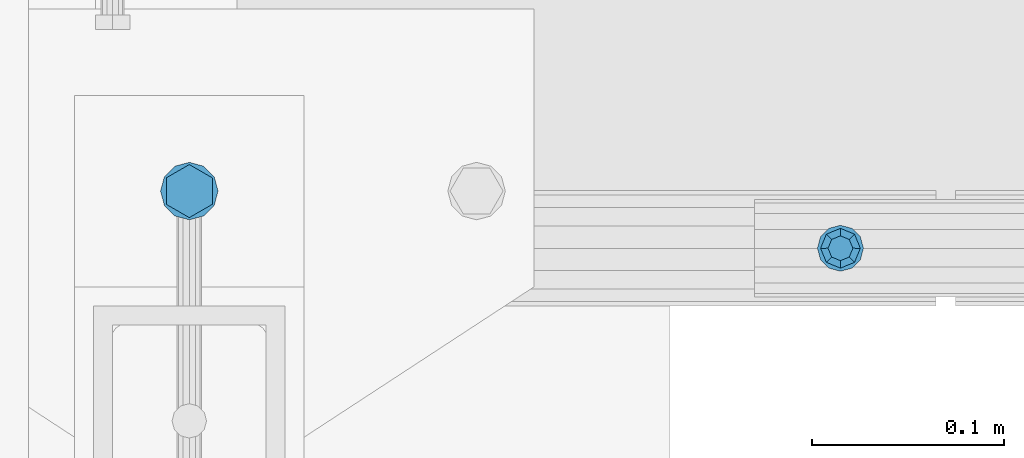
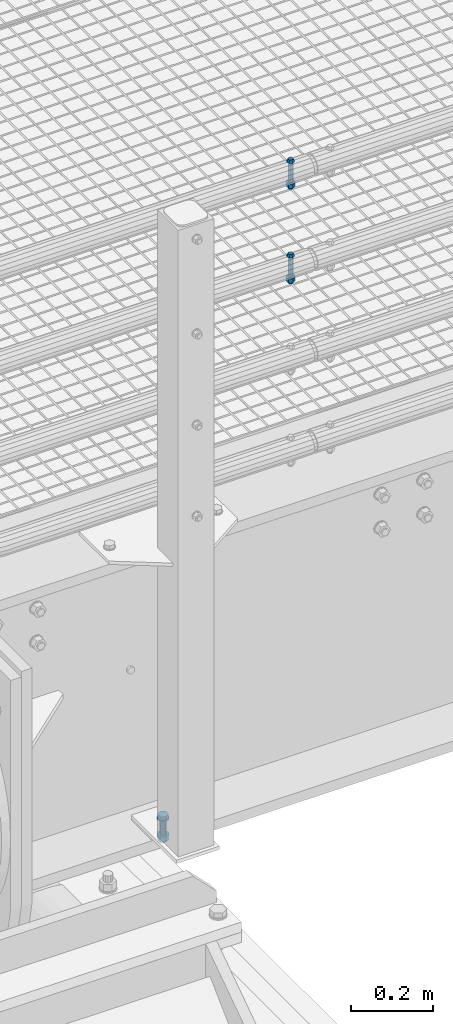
# One storey, part 61 of 1530: 3 mechanical fasteners.
"""IFC2X3 building model written with IfcOpenShell, lengths in millimetres."""

from ifc_helpers import new_model, si_unit, frame, origin_with_axes, place, context, subcontext, project, spatial, faceted_brep, source, transform, mapped, material, type_object, element, save


model = new_model("IFC2X3")

# Units and contexts
model_context = context("Model", 3, precision=1e-05, world=origin_with_axes())
body_context = subcontext(model_context, "Body", "Model", "MODEL_VIEW")
ifc_project = project(units=[si_unit("LENGTHUNIT", "METRE", prefix="MILLI"), si_unit("AREAUNIT", "SQUARE_METRE"), si_unit("VOLUMEUNIT", "CUBIC_METRE"), si_unit("MASSUNIT", "GRAM", prefix="KILO"), si_unit("TIMEUNIT", "SECOND"), si_unit("PLANEANGLEUNIT", "RADIAN"), si_unit("SOLIDANGLEUNIT", "STERADIAN"), si_unit("THERMODYNAMICTEMPERATUREUNIT", "DEGREE_CELSIUS"), si_unit("LUMINOUSINTENSITYUNIT", "LUMEN")], contexts=[model_context])

# Site, building, storey
site_placement = place(None, origin_with_axes())
site = spatial("IfcSite", under=ifc_project, at=site_placement, Name="Brattvåg", CompositionType="ELEMENT")
building_placement = place(site_placement, origin_with_axes())
building = spatial("IfcBuilding", under=site, at=building_placement, Name="Undefined", CompositionType="ELEMENT")
storey_placement = place(building_placement, origin_with_axes())
storey = spatial("IfcBuildingStorey", under=building, at=storey_placement, Name="Undefined", CompositionType="ELEMENT", Elevation=0.0)

# Mechanical fasteners
ifc_material = material(Name="8")
mechanical_fastener_type = type_object("IfcMechanicalFastenerType", Name="Bolt assembly")
shared_shape_1 = source(origin_with_axes(), body_context, "Body", "Brep", [
    faceted_brep([(6.49435320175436, -7.50000000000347, 0.0), (4.59220118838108, -7.50000000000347, 4.59220118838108), (3.97664443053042e-16, -7.50000000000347, 6.49435320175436), (-4.59220118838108, -7.50000000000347, 4.59220118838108), (-6.49435320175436, -7.50000000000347, 7.95328886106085e-16), (-4.59220118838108, -7.50000000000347, -4.59220118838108), (-1.19299332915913e-15, -7.50000000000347, -6.49435320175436), (4.59220118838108, -7.50000000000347, -4.59220118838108), (7.34846922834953, -3.46744855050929e-12, -7.34846922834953), (-1.90903542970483e-15, -3.46744855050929e-12, -10.3923048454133), (-7.34846922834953, -3.46744855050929e-12, -7.34846922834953), (-10.3923048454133, 3.46808519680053e-07, 1.27269028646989e-15), (-7.34846922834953, -3.46744855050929e-12, 7.34846922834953), (6.36345143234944e-16, -3.46744855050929e-12, 10.3923048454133), (7.34846922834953, -3.46744855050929e-12, 7.34846922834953), (10.3923048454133, 3.46808519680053e-07, 0.0), (6.0, 3.46808519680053e-07, 0.0), (5.19615242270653, 3.46808519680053e-07, 3.00000000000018), (2.99999999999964, 3.46808519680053e-07, 5.19615242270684), (-6.21801588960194e-13, 3.46808519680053e-07, 6.0), (-3.00000000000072, 3.46808519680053e-07, 5.19615242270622), (-5.19615242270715, 3.46808519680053e-07, 2.9999999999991), (-6.0, 3.46808519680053e-07, -1.24360317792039e-12), (-5.19615242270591, 3.46808519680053e-07, -3.00000000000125), (-2.99999999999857, 3.46808519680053e-07, -5.19615242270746), (1.85874342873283e-12, 3.46808519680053e-07, -6.0), (3.00000000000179, 3.46808519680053e-07, -5.1961524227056), (5.19615242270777, 3.46808519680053e-07, -2.99999999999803), (5.19615242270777, 79.9999999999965, -2.99999999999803), (3.00000000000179, 79.9999999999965, -5.1961524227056), (1.85874342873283e-12, 79.9999999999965, -6.0), (-2.99999999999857, 79.9999999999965, -5.19615242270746), (-5.19615242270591, 79.9999999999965, -3.00000000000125), (-6.0, 79.9999999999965, -1.24360317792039e-12), (-5.19615242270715, 79.9999999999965, 2.9999999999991), (-3.00000000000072, 79.9999999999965, 5.19615242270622), (-6.21801588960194e-13, 79.9999999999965, 6.0), (2.99999999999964, 79.9999999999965, 5.19615242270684), (5.19615242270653, 79.9999999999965, 3.00000000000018), (6.0, 79.9999999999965, 0.0), (12.0, 60.2988956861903, 0.0), (10.3923048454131, 60.2988956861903, 6.00000000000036), (5.99999999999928, 60.2988956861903, 10.3923048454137), (-1.24360317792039e-12, 60.2988956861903, 12.0), (-6.00000000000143, 60.2988956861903, 10.3923048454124), (-10.3923048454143, 60.2988956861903, 5.99999999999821), (-12.0, 60.2988956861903, -2.48720635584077e-12), (-10.3923048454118, 60.2988956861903, -6.00000000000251), (-5.99999999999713, 60.2988956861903, -10.3923048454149), (3.71748685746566e-12, 60.2988956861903, -12.0), (6.00000000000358, 60.2988956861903, -10.3923048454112), (10.3923048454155, 60.2988956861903, -5.99999999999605), (10.3923048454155, 62.7988956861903, -5.99999999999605), (6.00000000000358, 62.7988956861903, -10.3923048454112), (3.71748685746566e-12, 62.7988956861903, -12.0), (-5.99999999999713, 62.7988956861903, -10.3923048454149), (-10.3923048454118, 62.7988956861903, -6.00000000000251), (-12.0, 62.7988956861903, -2.48720635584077e-12), (-10.3923048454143, 62.7988956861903, 5.99999999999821), (-6.00000000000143, 62.7988956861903, 10.3923048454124), (-1.24360317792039e-12, 62.7988956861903, 12.0), (5.99999999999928, 62.7988956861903, 10.3923048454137), (10.3923048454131, 62.7988956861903, 6.00000000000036), (12.0, 62.7988956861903, 0.0), (10.9696551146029, 62.7988956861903, 0.0), (5.48482755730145, 62.7988956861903, 9.5), (-5.48482755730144, 62.7988956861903, 9.5), (-10.9696551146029, 62.7988956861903, 1.34339530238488e-15), (-5.48482755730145, 62.7988956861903, -9.5), (5.48482755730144, 62.7988956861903, -9.5), (5.48482755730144, 73.5988958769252, -9.5), (-5.48482755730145, 73.5988958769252, -9.5), (-10.9696551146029, 73.5988958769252, 1.34339530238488e-15), (-5.48482755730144, 73.5988958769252, 9.5), (5.48482755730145, 73.5988958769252, 9.5), (10.9696551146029, 73.5988958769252, 0.0)], [[[0, 1, 2, 3, 4, 5, 6, 7]], [[8, 9, 10, 11, 12, 13, 14, 15]], [[0, 15, 14, 1]], [[1, 14, 13, 2]], [[2, 13, 12, 3]], [[3, 12, 11, 4]], [[4, 11, 10, 5]], [[5, 10, 9, 6]], [[6, 9, 8, 7]], [[7, 8, 15, 0]], [[16, 17, 18, 19, 20, 21, 22, 23, 24, 25, 26, 27]], [[28, 29, 30, 31, 32, 33, 34, 35, 36, 37, 38, 39]], [[16, 39, 38, 17]], [[17, 38, 37, 18]], [[18, 37, 36, 19]], [[19, 36, 35, 20]], [[20, 35, 34, 21]], [[21, 34, 33, 22]], [[22, 33, 32, 23]], [[23, 32, 31, 24]], [[24, 31, 30, 25]], [[25, 30, 29, 26]], [[26, 29, 28, 27]], [[27, 28, 39, 16]], [[40, 41, 42, 43, 44, 45, 46, 47, 48, 49, 50, 51]], [[52, 53, 54, 55, 56, 57, 58, 59, 60, 61, 62, 63]], [[40, 63, 62, 41]], [[41, 62, 61, 42]], [[42, 61, 60, 43]], [[43, 60, 59, 44]], [[44, 59, 58, 45]], [[45, 58, 57, 46]], [[46, 57, 56, 47]], [[47, 56, 55, 48]], [[48, 55, 54, 49]], [[49, 54, 53, 50]], [[50, 53, 52, 51]], [[51, 52, 63, 40]], [[64, 65, 66, 67, 68, 69]], [[70, 71, 72, 73, 74, 75]], [[64, 75, 74, 65]], [[65, 74, 73, 66]], [[66, 73, 72, 67]], [[67, 72, 71, 68]], [[68, 71, 70, 69]], [[69, 70, 75, 64]]]),
    faceted_brep([(6.5, 0.100000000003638, 0.0), (5.62916512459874, 0.100000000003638, 3.25000000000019), (3.24999999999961, 0.100000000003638, 5.62916512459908), (-6.7361838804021e-13, 0.100000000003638, 6.5), (-3.25000000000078, 0.100000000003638, 5.6291651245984), (-5.62916512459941, 0.100000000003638, 3.24999999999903), (-6.5, 0.100000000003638, -1.34723677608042e-12), (-5.62916512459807, 0.100000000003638, -3.25000000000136), (-3.24999999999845, 0.100000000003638, -5.62916512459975), (2.01363871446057e-12, 0.100000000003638, -6.5), (3.25000000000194, 0.100000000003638, -5.62916512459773), (5.62916512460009, 0.100000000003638, -3.24999999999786), (5.62916512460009, 60.3988956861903, -3.24999999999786), (3.25000000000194, 60.3988956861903, -5.62916512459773), (2.01363871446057e-12, 60.3988956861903, -6.5), (-3.24999999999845, 60.3988956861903, -5.62916512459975), (-5.62916512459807, 60.3988956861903, -3.25000000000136), (-6.5, 60.3988956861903, -1.34723677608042e-12), (-5.62916512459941, 60.3988956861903, 3.24999999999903), (-3.25000000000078, 60.3988956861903, 5.6291651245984), (-6.7361838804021e-13, 60.3988956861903, 6.5), (3.24999999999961, 60.3988956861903, 5.62916512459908), (5.62916512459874, 60.3988956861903, 3.25000000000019), (6.5, 60.3988956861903, 0.0), (6.5, 4.25026510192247, 0.0), (5.62916512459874, 4.25026510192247, 3.25000000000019), (3.24999999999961, 4.25026510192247, 5.62916512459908), (-6.7361838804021e-13, 4.25026510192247, 6.5), (-3.25000000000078, 4.25026510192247, 5.6291651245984), (-5.62916512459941, 4.25026510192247, 3.24999999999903), (-6.5, 4.25026510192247, -1.34723677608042e-12), (-5.62916512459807, 4.25026510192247, -3.25000000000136), (-3.24999999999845, 4.25026510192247, -5.62916512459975), (2.01363871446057e-12, 4.25026510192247, -6.5), (3.25000000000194, 4.25026510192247, -5.62916512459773), (5.62916512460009, 4.25026510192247, -3.24999999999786), (5.62916512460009, 55.3491717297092, -3.24999999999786), (3.25000000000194, 55.3491717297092, -5.62916512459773), (2.01363871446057e-12, 55.3491717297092, -6.5), (-3.24999999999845, 55.3491717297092, -5.62916512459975), (-5.62916512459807, 55.3491717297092, -3.25000000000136), (-6.5, 55.3491717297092, -1.34723677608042e-12), (-5.62916512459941, 55.3491717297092, 3.24999999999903), (-3.25000000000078, 55.3491717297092, 5.6291651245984), (-6.7361838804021e-13, 55.3491717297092, 6.5), (3.24999999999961, 55.3491717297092, 5.62916512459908), (5.62916512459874, 55.3491717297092, 3.25000000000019), (6.5, 55.3491717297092, 0.0)], [[[0, 1, 2, 3, 4, 5, 6, 7, 8, 9, 10, 11]], [[12, 13, 14, 15, 16, 17, 18, 19, 20, 21, 22, 23]], [[0, 23, 22, 1]], [[1, 22, 21, 2]], [[2, 21, 20, 3]], [[3, 20, 19, 4]], [[4, 19, 18, 5]], [[5, 18, 17, 6]], [[6, 17, 16, 7]], [[7, 16, 15, 8]], [[8, 15, 14, 9]], [[9, 14, 13, 10]], [[10, 13, 12, 11]], [[11, 12, 23, 0]], [[24, 25, 26, 27, 28, 29, 30, 31, 32, 33, 34, 35]], [[36, 37, 38, 39, 40, 41, 42, 43, 44, 45, 46, 47]], [[24, 47, 46, 25]], [[25, 46, 45, 26]], [[26, 45, 44, 27]], [[27, 44, 43, 28]], [[28, 43, 42, 29]], [[29, 42, 41, 30]], [[30, 41, 40, 31]], [[31, 40, 39, 32]], [[32, 39, 38, 33]], [[33, 38, 37, 34]], [[34, 37, 36, 35]], [[35, 36, 47, 24]]]),
])
mechanical_fastener_1_placement = place(storey_placement, frame((890.000137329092, -129.849880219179, 719.7000579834), z_axis=(-1.0, 1.99999855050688e-09, 0.0), x_axis=(0.0, 0.999999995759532, -9.2091999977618e-05)))
element("IfcMechanicalFastener", 1, at=mechanical_fastener_1_placement, inside=storey, type_object=mechanical_fastener_type, material=ifc_material, Name="Bolt assembly", NominalDiameter=12.0, NominalLength=80.0, context=body_context, shape_type="MappedRepresentation", body=[
    mapped(shared_shape_1, transform((0.0, 0.0, 0.0))),
])
shared_shape_2 = source(origin_with_axes(), body_context, "Body", "Brep", [
    faceted_brep([(6.49435320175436, -7.49993057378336, 0.0), (4.59220118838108, -7.49993057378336, 4.59220118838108), (3.97664443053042e-16, -7.49993057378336, 6.49435320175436), (-4.59220118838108, -7.49993057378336, 4.59220118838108), (-6.49435320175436, -7.49993057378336, 7.95328886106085e-16), (-4.59220118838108, -7.49993057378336, -4.59220118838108), (-1.19299332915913e-15, -7.49993057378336, -6.49435320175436), (4.59220118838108, -7.49993057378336, -4.59220118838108), (7.34846922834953, 6.94262166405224e-05, -7.34846922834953), (-1.90903542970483e-15, 6.94262166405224e-05, -10.3923048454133), (-7.34846922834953, 6.94262166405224e-05, -7.34846922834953), (-10.3923048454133, 6.94262166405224e-05, 1.27269028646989e-15), (-7.34846922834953, 6.94262166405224e-05, 7.34846922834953), (6.36345143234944e-16, 6.94262166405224e-05, 10.3923048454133), (7.34846922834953, 6.94262166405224e-05, 7.34846922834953), (10.3923048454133, 6.94262166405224e-05, 0.0), (6.0, 6.94262166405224e-05, 0.0), (5.19615242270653, 6.94262166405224e-05, 3.00000000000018), (2.99999999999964, 6.94262166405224e-05, 5.19615242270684), (-6.21801588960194e-13, 6.94262166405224e-05, 6.0), (-3.00000000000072, 6.94262166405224e-05, 5.19615242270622), (-5.19615242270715, 6.94262166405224e-05, 2.9999999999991), (-6.0, 6.94262166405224e-05, -1.24360317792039e-12), (-5.19615242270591, 6.94262166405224e-05, -3.00000000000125), (-2.99999999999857, 6.94262166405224e-05, -5.19615242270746), (1.85874342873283e-12, 6.94262166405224e-05, -6.0), (3.00000000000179, 6.94262166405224e-05, -5.1961524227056), (5.19615242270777, 6.94262166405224e-05, -2.99999999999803), (5.19615242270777, 80.0000694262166, -2.99999999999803), (3.00000000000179, 80.0000694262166, -5.1961524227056), (1.85874342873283e-12, 80.0000694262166, -6.0), (-2.99999999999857, 80.0000694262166, -5.19615242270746), (-5.19615242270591, 80.0000694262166, -3.00000000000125), (-6.0, 80.0000694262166, -1.24360317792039e-12), (-5.19615242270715, 80.0000694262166, 2.9999999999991), (-3.00000000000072, 80.0000694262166, 5.19615242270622), (-6.21801588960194e-13, 80.0000694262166, 6.0), (2.99999999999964, 80.0000694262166, 5.19615242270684), (5.19615242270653, 80.0000694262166, 3.00000000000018), (6.0, 80.0000694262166, 0.0), (12.0, 60.2989651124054, 0.0), (10.3923048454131, 60.2989651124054, 6.00000000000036), (5.99999999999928, 60.2989651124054, 10.3923048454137), (-1.24360317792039e-12, 60.2989651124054, 12.0), (-6.00000000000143, 60.2989651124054, 10.3923048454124), (-10.3923048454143, 60.2989651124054, 5.99999999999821), (-12.0, 60.2989651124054, -2.48720635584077e-12), (-10.3923048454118, 60.2989651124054, -6.00000000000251), (-5.99999999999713, 60.2989651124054, -10.3923048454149), (3.71748685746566e-12, 60.2989651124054, -12.0), (6.00000000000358, 60.2989651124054, -10.3923048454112), (10.3923048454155, 60.2989651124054, -5.99999999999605), (10.3923048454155, 62.7989651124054, -5.99999999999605), (6.00000000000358, 62.7989651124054, -10.3923048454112), (3.71748685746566e-12, 62.7989651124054, -12.0), (-5.99999999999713, 62.7989651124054, -10.3923048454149), (-10.3923048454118, 62.7989651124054, -6.00000000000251), (-12.0, 62.7989651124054, -2.48720635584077e-12), (-10.3923048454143, 62.7989651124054, 5.99999999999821), (-6.00000000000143, 62.7989651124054, 10.3923048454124), (-1.24360317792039e-12, 62.7989651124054, 12.0), (5.99999999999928, 62.7989651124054, 10.3923048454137), (10.3923048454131, 62.7989651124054, 6.00000000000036), (12.0, 62.7989651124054, 0.0), (10.9696551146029, 62.7989651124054, 0.0), (5.48482755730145, 62.7989651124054, 9.5), (-5.48482755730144, 62.7989651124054, 9.5), (-10.9696551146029, 62.7989651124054, 1.34339530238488e-15), (-5.48482755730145, 62.7989651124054, -9.5), (5.48482755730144, 62.7989651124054, -9.5), (5.48482755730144, 73.5989653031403, -9.5), (-5.48482755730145, 73.5989653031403, -9.5), (-10.9696551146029, 73.5989653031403, 1.34339530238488e-15), (-5.48482755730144, 73.5989653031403, 9.5), (5.48482755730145, 73.5989653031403, 9.5), (10.9696551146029, 73.5989653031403, 0.0)], [[[0, 1, 2, 3, 4, 5, 6, 7]], [[8, 9, 10, 11, 12, 13, 14, 15]], [[0, 15, 14, 1]], [[1, 14, 13, 2]], [[2, 13, 12, 3]], [[3, 12, 11, 4]], [[4, 11, 10, 5]], [[5, 10, 9, 6]], [[6, 9, 8, 7]], [[7, 8, 15, 0]], [[16, 17, 18, 19, 20, 21, 22, 23, 24, 25, 26, 27]], [[28, 29, 30, 31, 32, 33, 34, 35, 36, 37, 38, 39]], [[16, 39, 38, 17]], [[17, 38, 37, 18]], [[18, 37, 36, 19]], [[19, 36, 35, 20]], [[20, 35, 34, 21]], [[21, 34, 33, 22]], [[22, 33, 32, 23]], [[23, 32, 31, 24]], [[24, 31, 30, 25]], [[25, 30, 29, 26]], [[26, 29, 28, 27]], [[27, 28, 39, 16]], [[40, 41, 42, 43, 44, 45, 46, 47, 48, 49, 50, 51]], [[52, 53, 54, 55, 56, 57, 58, 59, 60, 61, 62, 63]], [[40, 63, 62, 41]], [[41, 62, 61, 42]], [[42, 61, 60, 43]], [[43, 60, 59, 44]], [[44, 59, 58, 45]], [[45, 58, 57, 46]], [[46, 57, 56, 47]], [[47, 56, 55, 48]], [[48, 55, 54, 49]], [[49, 54, 53, 50]], [[50, 53, 52, 51]], [[51, 52, 63, 40]], [[64, 65, 66, 67, 68, 69]], [[70, 71, 72, 73, 74, 75]], [[64, 75, 74, 65]], [[65, 74, 73, 66]], [[66, 73, 72, 67]], [[67, 72, 71, 68]], [[68, 71, 70, 69]], [[69, 70, 75, 64]]]),
    faceted_brep([(6.5, 0.100069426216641, 0.0), (5.62916512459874, 0.100069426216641, 3.25000000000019), (3.24999999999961, 0.100069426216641, 5.62916512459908), (-6.7361838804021e-13, 0.100069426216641, 6.5), (-3.25000000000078, 0.100069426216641, 5.6291651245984), (-5.62916512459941, 0.100069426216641, 3.24999999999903), (-6.5, 0.100069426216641, -1.34723677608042e-12), (-5.62916512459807, 0.100069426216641, -3.25000000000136), (-3.24999999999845, 0.100069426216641, -5.62916512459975), (2.01363871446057e-12, 0.100069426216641, -6.5), (3.25000000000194, 0.100069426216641, -5.62916512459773), (5.62916512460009, 0.100069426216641, -3.24999999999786), (5.62916512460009, 60.3989651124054, -3.24999999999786), (3.25000000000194, 60.3989651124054, -5.62916512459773), (2.01363871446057e-12, 60.3989651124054, -6.5), (-3.24999999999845, 60.3989651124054, -5.62916512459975), (-5.62916512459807, 60.3989651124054, -3.25000000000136), (-6.5, 60.3989651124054, -1.34723677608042e-12), (-5.62916512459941, 60.3989651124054, 3.24999999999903), (-3.25000000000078, 60.3989651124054, 5.6291651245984), (-6.7361838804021e-13, 60.3989651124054, 6.5), (3.24999999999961, 60.3989651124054, 5.62916512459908), (5.62916512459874, 60.3989651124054, 3.25000000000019), (6.5, 60.3989651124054, 0.0), (6.5, 4.25026510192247, 0.0), (5.62916512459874, 4.25026510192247, 3.25000000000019), (3.24999999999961, 4.25026510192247, 5.62916512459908), (-6.7361838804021e-13, 4.25026510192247, 6.5), (-3.25000000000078, 4.25026510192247, 5.6291651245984), (-5.62916512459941, 4.25026510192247, 3.24999999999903), (-6.5, 4.25026510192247, -1.34723677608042e-12), (-5.62916512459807, 4.25026510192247, -3.25000000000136), (-3.24999999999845, 4.25026510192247, -5.62916512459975), (2.01363871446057e-12, 4.25026510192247, -6.5), (3.25000000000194, 4.25026510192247, -5.62916512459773), (5.62916512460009, 4.25026510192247, -3.24999999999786), (5.62916512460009, 55.3491717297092, -3.24999999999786), (3.25000000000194, 55.3491717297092, -5.62916512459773), (2.01363871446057e-12, 55.3491717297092, -6.5), (-3.24999999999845, 55.3491717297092, -5.62916512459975), (-5.62916512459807, 55.3491717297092, -3.25000000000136), (-6.5, 55.3491717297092, -1.34723677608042e-12), (-5.62916512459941, 55.3491717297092, 3.24999999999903), (-3.25000000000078, 55.3491717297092, 5.6291651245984), (-6.7361838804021e-13, 55.3491717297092, 6.5), (3.24999999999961, 55.3491717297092, 5.62916512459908), (5.62916512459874, 55.3491717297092, 3.25000000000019), (6.5, 55.3491717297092, 0.0)], [[[0, 1, 2, 3, 4, 5, 6, 7, 8, 9, 10, 11]], [[12, 13, 14, 15, 16, 17, 18, 19, 20, 21, 22, 23]], [[0, 23, 22, 1]], [[1, 22, 21, 2]], [[2, 21, 20, 3]], [[3, 20, 19, 4]], [[4, 19, 18, 5]], [[5, 18, 17, 6]], [[6, 17, 16, 7]], [[7, 16, 15, 8]], [[8, 15, 14, 9]], [[9, 14, 13, 10]], [[10, 13, 12, 11]], [[11, 12, 23, 0]], [[24, 25, 26, 27, 28, 29, 30, 31, 32, 33, 34, 35]], [[36, 37, 38, 39, 40, 41, 42, 43, 44, 45, 46, 47]], [[24, 47, 46, 25]], [[25, 46, 45, 26]], [[26, 45, 44, 27]], [[27, 44, 43, 28]], [[28, 43, 42, 29]], [[29, 42, 41, 30]], [[30, 41, 40, 31]], [[31, 40, 39, 32]], [[32, 39, 38, 33]], [[33, 38, 37, 34]], [[34, 37, 36, 35]], [[35, 36, 47, 24]]]),
])
mechanical_fastener_2_placement = place(storey_placement, frame((890.000137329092, -129.849880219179, 999.7000579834), z_axis=(-1.0, 1.99999855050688e-09, 0.0), x_axis=(0.0, 0.999999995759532, -9.2091999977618e-05)))
element("IfcMechanicalFastener", 2, at=mechanical_fastener_2_placement, inside=storey, type_object=mechanical_fastener_type, material=ifc_material, Name="Bolt assembly", NominalDiameter=12.0, NominalLength=80.0, context=body_context, shape_type="MappedRepresentation", body=[
    mapped(shared_shape_2, transform((0.0, 0.0, 0.0))),
])
shared_shape_3 = source(origin_with_axes(), body_context, "Body", "Brep", [
    faceted_brep([(13.856406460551, -12.9998916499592, 0.0), (6.92820323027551, -12.9998916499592, 12.0), (-6.92820323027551, -12.9998916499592, 12.0), (-13.856406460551, -12.9998916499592, 1.69692038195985e-15), (-6.92820323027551, -12.9998916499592, -12.0), (6.9282032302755, -12.9998916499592, -12.0), (6.9282032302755, -2.99989164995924, -12.0), (-6.92820323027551, -2.99989164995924, -12.0), (-13.856406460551, -2.99989164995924, 1.69692038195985e-15), (-6.92820323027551, -2.99989164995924, 12.0), (6.92820323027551, -2.99989164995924, 12.0), (13.856406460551, -2.99989164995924, 0.0), (8.0, -2.99989164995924, 0.0), (6.92820323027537, -2.99989164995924, 4.00000000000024), (3.99999999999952, -2.99989164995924, 6.92820323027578), (-8.29068785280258e-13, -2.99989164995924, 8.0), (-4.00000000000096, -2.99989164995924, 6.92820323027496), (-6.9282032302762, -2.99989164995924, 3.99999999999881), (-8.0, -2.99989164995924, -1.65813757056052e-12), (-6.92820323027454, -2.99989164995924, -4.00000000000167), (-3.99999999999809, -2.99989164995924, -6.92820323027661), (2.47832457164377e-12, -2.99989164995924, -8.0), (4.00000000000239, -2.99989164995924, -6.92820323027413), (6.92820323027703, -2.99989164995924, -3.99999999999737), (6.92820323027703, 67.0001083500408, -3.99999999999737), (4.00000000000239, 67.0001083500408, -6.92820323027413), (2.47832457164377e-12, 67.0001083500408, -8.0), (-3.99999999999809, 67.0001083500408, -6.92820323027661), (-6.92820323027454, 67.0001083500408, -4.00000000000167), (-8.0, 67.0001083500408, -1.65813757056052e-12), (-6.9282032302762, 67.0001083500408, 3.99999999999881), (-4.00000000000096, 67.0001083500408, 6.92820323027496), (-8.29068785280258e-13, 67.0001083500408, 8.0), (3.99999999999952, 67.0001083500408, 6.92820323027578), (6.92820323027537, 67.0001083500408, 4.00000000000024), (8.0, 67.0001083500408, 0.0), (15.0, -2.99989164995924, 0.0), (12.9903810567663, -2.99989164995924, 7.50000000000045), (7.4999999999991, -2.99989164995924, 12.9903810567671), (-1.55450397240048e-12, -2.99989164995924, 15.0), (-7.50000000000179, -2.99989164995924, 12.9903810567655), (-12.9903810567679, -2.99989164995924, 7.49999999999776), (-15.0, -2.99989164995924, -3.10900794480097e-12), (-12.9903810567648, -2.99989164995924, -7.50000000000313), (-7.49999999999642, -2.99989164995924, -12.9903810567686), (4.64685857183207e-12, -2.99989164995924, -15.0), (7.50000000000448, -2.99989164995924, -12.990381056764), (12.9903810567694, -2.99989164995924, -7.49999999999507), (12.9903810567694, 0.000108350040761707, -7.49999999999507), (7.50000000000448, 0.000108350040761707, -12.990381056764), (4.64685857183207e-12, 0.000108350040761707, -15.0), (-7.49999999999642, 0.000108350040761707, -12.9903810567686), (-12.9903810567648, 0.000108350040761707, -7.50000000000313), (-15.0, 0.000108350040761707, -3.10900794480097e-12), (-12.9903810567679, 0.000108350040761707, 7.49999999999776), (-7.50000000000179, 0.000108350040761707, 12.9903810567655), (-1.55450397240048e-12, 0.000108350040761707, 15.0), (7.4999999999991, 0.000108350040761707, 12.9903810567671), (12.9903810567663, 0.000108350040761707, 7.50000000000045), (15.0, 0.000108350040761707, 0.0), (15.0, 45.0001982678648, 0.0), (12.9903810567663, 45.0001982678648, 7.50000000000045), (7.4999999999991, 45.0001982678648, 12.9903810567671), (-1.55450397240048e-12, 45.0001982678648, 15.0), (-7.50000000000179, 45.0001982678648, 12.9903810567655), (-12.9903810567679, 45.0001982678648, 7.49999999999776), (-15.0, 45.0001982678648, -3.10900794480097e-12), (-12.9903810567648, 45.0001982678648, -7.50000000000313), (-7.49999999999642, 45.0001982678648, -12.9903810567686), (4.64685857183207e-12, 45.0001982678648, -15.0), (7.50000000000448, 45.0001982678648, -12.990381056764), (12.9903810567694, 45.0001982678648, -7.49999999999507), (12.9903810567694, 48.0001982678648, -7.49999999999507), (7.50000000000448, 48.0001982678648, -12.990381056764), (4.64685857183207e-12, 48.0001982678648, -15.0), (-7.49999999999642, 48.0001982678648, -12.9903810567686), (-12.9903810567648, 48.0001982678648, -7.50000000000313), (-15.0, 48.0001982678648, -3.10900794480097e-12), (-12.9903810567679, 48.0001982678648, 7.49999999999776), (-7.50000000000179, 48.0001982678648, 12.9903810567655), (-1.55450397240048e-12, 48.0001982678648, 15.0), (7.4999999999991, 48.0001982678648, 12.9903810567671), (12.9903810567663, 48.0001982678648, 7.50000000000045), (15.0, 48.0001982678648, 0.0), (13.856406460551, 48.0001982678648, 0.0), (6.92820323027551, 48.0001982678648, 12.0), (-6.92820323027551, 48.0001982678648, 12.0), (-13.856406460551, 48.0001982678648, 1.69692038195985e-15), (-6.92820323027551, 48.0001982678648, -12.0), (6.9282032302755, 48.0001982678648, -12.0), (6.9282032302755, 62.8001984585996, -12.0), (-6.92820323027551, 62.8001984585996, -12.0), (-13.856406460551, 62.8001984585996, 1.69692038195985e-15), (-6.92820323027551, 62.8001984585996, 12.0), (6.92820323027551, 62.8001984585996, 12.0), (13.856406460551, 62.8001984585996, 0.0)], [[[0, 1, 2, 3, 4, 5]], [[6, 7, 8, 9, 10, 11]], [[0, 11, 10, 1]], [[1, 10, 9, 2]], [[2, 9, 8, 3]], [[3, 8, 7, 4]], [[4, 7, 6, 5]], [[5, 6, 11, 0]], [[12, 13, 14, 15, 16, 17, 18, 19, 20, 21, 22, 23]], [[24, 25, 26, 27, 28, 29, 30, 31, 32, 33, 34, 35]], [[12, 35, 34, 13]], [[13, 34, 33, 14]], [[14, 33, 32, 15]], [[15, 32, 31, 16]], [[16, 31, 30, 17]], [[17, 30, 29, 18]], [[18, 29, 28, 19]], [[19, 28, 27, 20]], [[20, 27, 26, 21]], [[21, 26, 25, 22]], [[22, 25, 24, 23]], [[23, 24, 35, 12]], [[36, 37, 38, 39, 40, 41, 42, 43, 44, 45, 46, 47]], [[48, 49, 50, 51, 52, 53, 54, 55, 56, 57, 58, 59]], [[36, 59, 58, 37]], [[37, 58, 57, 38]], [[38, 57, 56, 39]], [[39, 56, 55, 40]], [[40, 55, 54, 41]], [[41, 54, 53, 42]], [[42, 53, 52, 43]], [[43, 52, 51, 44]], [[44, 51, 50, 45]], [[45, 50, 49, 46]], [[46, 49, 48, 47]], [[47, 48, 59, 36]], [[60, 61, 62, 63, 64, 65, 66, 67, 68, 69, 70, 71]], [[72, 73, 74, 75, 76, 77, 78, 79, 80, 81, 82, 83]], [[60, 83, 82, 61]], [[61, 82, 81, 62]], [[62, 81, 80, 63]], [[63, 80, 79, 64]], [[64, 79, 78, 65]], [[65, 78, 77, 66]], [[66, 77, 76, 67]], [[67, 76, 75, 68]], [[68, 75, 74, 69]], [[69, 74, 73, 70]], [[70, 73, 72, 71]], [[71, 72, 83, 60]], [[84, 85, 86, 87, 88, 89]], [[90, 91, 92, 93, 94, 95]], [[84, 95, 94, 85]], [[85, 94, 93, 86]], [[86, 93, 92, 87]], [[87, 92, 91, 88]], [[88, 91, 90, 89]], [[89, 90, 95, 84]]]),
    faceted_brep([(9.0, 0.100108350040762, 0.0), (7.79422863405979, 0.100108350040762, 4.50000000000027), (4.49999999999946, 0.100108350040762, 7.79422863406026), (-9.3270238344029e-13, 0.100108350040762, 9.0), (-4.50000000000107, 0.100108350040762, 7.79422863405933), (-7.79422863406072, 0.100108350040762, 4.49999999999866), (-9.0, 0.100108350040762, -1.86540476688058e-12), (-7.79422863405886, 0.100108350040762, -4.50000000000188), (-4.49999999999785, 0.100108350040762, -7.79422863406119), (2.78811514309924e-12, 0.100108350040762, -9.0), (4.50000000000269, 0.100108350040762, -7.7942286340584), (7.79422863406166, 0.100108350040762, -4.49999999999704), (7.79422863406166, 10.10010835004, -4.49999999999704), (4.50000000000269, 10.10010835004, -7.7942286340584), (2.78811514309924e-12, 10.10010835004, -9.0), (-4.49999999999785, 10.10010835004, -7.79422863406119), (-7.79422863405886, 10.10010835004, -4.50000000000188), (-9.0, 10.10010835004, -1.86540476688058e-12), (-7.79422863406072, 10.10010835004, 4.49999999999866), (-4.50000000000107, 10.10010835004, 7.79422863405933), (-9.3270238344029e-13, 10.10010835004, 9.0), (4.49999999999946, 10.10010835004, 7.79422863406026), (7.79422863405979, 10.10010835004, 4.50000000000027), (9.0, 10.10010835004, 0.0), (9.0, 10.0002383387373, 0.0), (7.79422863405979, 10.0002383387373, 4.50000000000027), (4.49999999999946, 10.0002383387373, 7.79422863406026), (-9.3270238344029e-13, 10.0002383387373, 9.0), (-4.50000000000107, 10.0002383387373, 7.79422863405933), (-7.79422863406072, 10.0002383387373, 4.49999999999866), (-9.0, 10.0002383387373, -1.86540476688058e-12), (-7.79422863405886, 10.0002383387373, -4.50000000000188), (-4.49999999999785, 10.0002383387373, -7.79422863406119), (2.78811514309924e-12, 10.0002383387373, -9.0), (4.50000000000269, 10.0002383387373, -7.7942286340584), (7.79422863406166, 10.0002383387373, -4.49999999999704), (7.79422863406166, 15.000238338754, -4.49999999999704), (4.50000000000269, 15.000238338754, -7.7942286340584), (2.78811514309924e-12, 15.000238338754, -9.0), (-4.49999999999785, 15.000238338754, -7.79422863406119), (-7.79422863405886, 15.000238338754, -4.50000000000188), (-9.0, 15.000238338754, -1.86540476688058e-12), (-7.79422863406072, 15.000238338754, 4.49999999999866), (-4.50000000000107, 15.000238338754, 7.79422863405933), (-9.3270238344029e-13, 15.000238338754, 9.0), (4.49999999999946, 15.000238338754, 7.79422863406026), (7.79422863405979, 15.000238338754, 4.50000000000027), (9.0, 15.000238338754, 0.0), (9.0, 14.9001982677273, 0.0), (7.79422863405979, 14.9001982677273, 4.50000000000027), (4.49999999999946, 14.9001982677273, 7.79422863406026), (-9.3270238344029e-13, 14.9001982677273, 9.0), (-4.50000000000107, 14.9001982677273, 7.79422863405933), (-7.79422863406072, 14.9001982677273, 4.49999999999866), (-9.0, 14.9001982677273, -1.86540476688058e-12), (-7.79422863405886, 14.9001982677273, -4.50000000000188), (-4.49999999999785, 14.9001982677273, -7.79422863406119), (2.78811514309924e-12, 14.9001982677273, -9.0), (4.50000000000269, 14.9001982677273, -7.7942286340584), (7.79422863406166, 14.9001982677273, -4.49999999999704), (7.79422863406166, 45.0001982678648, -4.49999999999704), (4.50000000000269, 45.0001982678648, -7.7942286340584), (2.78811514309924e-12, 45.0001982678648, -9.0), (-4.49999999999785, 45.0001982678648, -7.79422863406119), (-7.79422863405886, 45.0001982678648, -4.50000000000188), (-9.0, 45.0001982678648, -1.86540476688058e-12), (-7.79422863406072, 45.0001982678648, 4.49999999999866), (-4.50000000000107, 45.0001982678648, 7.79422863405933), (-9.3270238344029e-13, 45.0001982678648, 9.0), (4.49999999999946, 45.0001982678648, 7.79422863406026), (7.79422863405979, 45.0001982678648, 4.50000000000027), (9.0, 45.0001982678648, 0.0)], [[[0, 1, 2, 3, 4, 5, 6, 7, 8, 9, 10, 11]], [[12, 13, 14, 15, 16, 17, 18, 19, 20, 21, 22, 23]], [[0, 23, 22, 1]], [[1, 22, 21, 2]], [[2, 21, 20, 3]], [[3, 20, 19, 4]], [[4, 19, 18, 5]], [[5, 18, 17, 6]], [[6, 17, 16, 7]], [[7, 16, 15, 8]], [[8, 15, 14, 9]], [[9, 14, 13, 10]], [[10, 13, 12, 11]], [[11, 12, 23, 0]], [[24, 25, 26, 27, 28, 29, 30, 31, 32, 33, 34, 35]], [[36, 37, 38, 39, 40, 41, 42, 43, 44, 45, 46, 47]], [[24, 47, 46, 25]], [[25, 46, 45, 26]], [[26, 45, 44, 27]], [[27, 44, 43, 28]], [[28, 43, 42, 29]], [[29, 42, 41, 30]], [[30, 41, 40, 31]], [[31, 40, 39, 32]], [[32, 39, 38, 33]], [[33, 38, 37, 34]], [[34, 37, 36, 35]], [[35, 36, 47, 24]], [[48, 49, 50, 51, 52, 53, 54, 55, 56, 57, 58, 59]], [[60, 61, 62, 63, 64, 65, 66, 67, 68, 69, 70, 71]], [[48, 71, 70, 49]], [[49, 70, 69, 50]], [[50, 69, 68, 51]], [[51, 68, 67, 52]], [[52, 67, 66, 53]], [[53, 66, 65, 54]], [[54, 65, 64, 55]], [[55, 64, 63, 56]], [[56, 63, 62, 57]], [[57, 62, 61, 58]], [[58, 61, 60, 59]], [[59, 60, 71, 48]]]),
])
mechanical_fastener_3_placement = place(storey_placement, frame((550.000160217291, -99.9996833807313, -844.999801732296), z_axis=(1.0, 0.0, 0.0), x_axis=(0.0, -0.999999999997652, -2.16700000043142e-06)))
element("IfcMechanicalFastener", 3, at=mechanical_fastener_3_placement, inside=storey, type_object=mechanical_fastener_type, material=ifc_material, Name="Bolt assembly", NominalDiameter=16.0, NominalLength=70.0, context=body_context, shape_type="MappedRepresentation", body=[
    mapped(shared_shape_3, transform((0.0, 0.0, 0.0))),
])

save(model, "model.ifc")
